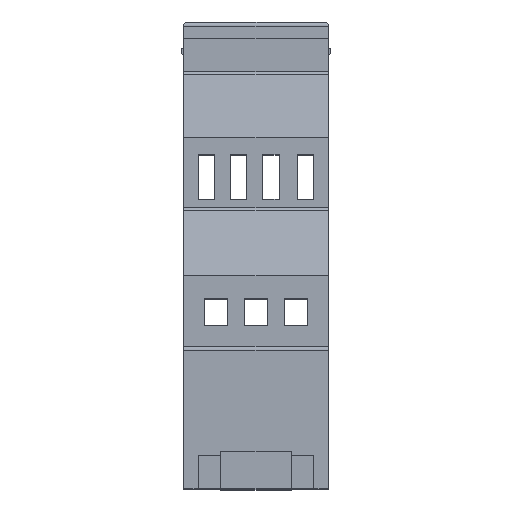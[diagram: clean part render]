
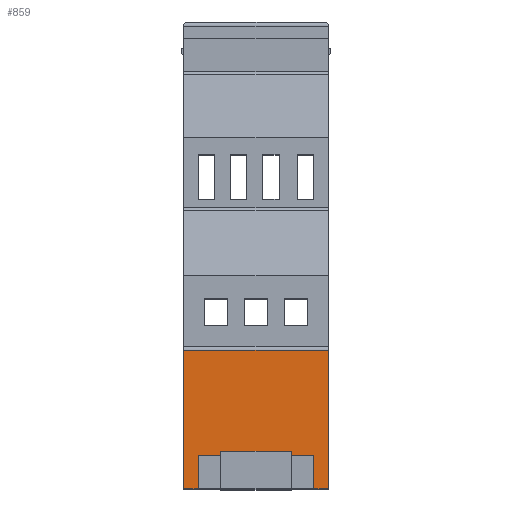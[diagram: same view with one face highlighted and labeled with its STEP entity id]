
A CAD part, top view. The second image highlights one B-rep face of the part: STEP entity #859.
In plain terms, the highlighted planar face has unit normal (0, 0, 1).
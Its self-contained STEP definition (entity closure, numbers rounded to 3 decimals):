
#126 = LINE ( 'NONE', #9702, #10310 ) ;
#288 = CARTESIAN_POINT ( 'NONE',  ( 17.5, 0., 45. ) ) ;
#313 = CARTESIAN_POINT ( 'NONE',  ( 15.75, 0., 45. ) ) ;
#355 = LINE ( 'NONE', #2900, #2182 ) ;
#418 = CARTESIAN_POINT ( 'NONE',  ( 15.75, 0., 45. ) ) ;
#570 = CARTESIAN_POINT ( 'NONE',  ( 0., 0., 45. ) ) ;
#681 = DIRECTION ( 'NONE',  ( 0., -1., 0. ) ) ;
#859 = ADVANCED_FACE ( 'NONE', ( #7921 ), #8162, .F. ) ;
#927 = ORIENTED_EDGE ( 'NONE', *, *, #8891, .F. ) ;
#1459 = ORIENTED_EDGE ( 'NONE', *, *, #5930, .F. ) ;
#1801 = CARTESIAN_POINT ( 'NONE',  ( 17.5, 0., 45. ) ) ;
#1993 = VERTEX_POINT ( 'NONE', #3365 ) ;
#2121 = VERTEX_POINT ( 'NONE', #7985 ) ;
#2124 = CARTESIAN_POINT ( 'NONE',  ( 0., 16.732, 45. ) ) ;
#2182 = VECTOR ( 'NONE', #2194, 1000. ) ;
#2194 = DIRECTION ( 'NONE',  ( -1., 0., 0. ) ) ;
#2236 = ORIENTED_EDGE ( 'NONE', *, *, #6373, .F. ) ;
#2900 = CARTESIAN_POINT ( 'NONE',  ( 17.5, 4., 45. ) ) ;
#3365 = CARTESIAN_POINT ( 'NONE',  ( 17.5, 16.732, 45. ) ) ;
#3550 = LINE ( 'NONE', #9728, #4984 ) ;
#3574 = VERTEX_POINT ( 'NONE', #4651 ) ;
#3837 = AXIS2_PLACEMENT_3D ( 'NONE', #1801, #8102, #9714 ) ;
#4209 = VERTEX_POINT ( 'NONE', #4647 ) ;
#4245 = EDGE_CURVE ( 'NONE', #7053, #9520, #3550, .T. ) ;
#4482 = EDGE_LOOP ( 'NONE', ( #927, #9463, #9335, #2236, #10240, #5095, #1459, #9763 ) ) ;
#4647 = CARTESIAN_POINT ( 'NONE',  ( 15.75, 4., 45. ) ) ;
#4651 = CARTESIAN_POINT ( 'NONE',  ( 1.75, 4., 45. ) ) ;
#4862 = CARTESIAN_POINT ( 'NONE',  ( 0., 0., 45. ) ) ;
#4984 = VECTOR ( 'NONE', #9032, 1000. ) ;
#5004 = VECTOR ( 'NONE', #9293, 1000. ) ;
#5095 = ORIENTED_EDGE ( 'NONE', *, *, #11081, .F. ) ;
#5120 = VECTOR ( 'NONE', #681, 1000. ) ;
#5203 = CARTESIAN_POINT ( 'NONE',  ( 17.5, 16.732, 45. ) ) ;
#5261 = CARTESIAN_POINT ( 'NONE',  ( 17.5, 0., 45. ) ) ;
#5279 = LINE ( 'NONE', #9798, #7670 ) ;
#5559 = VERTEX_POINT ( 'NONE', #4862 ) ;
#5591 = DIRECTION ( 'NONE',  ( -1., 0., 0. ) ) ;
#5930 = EDGE_CURVE ( 'NONE', #9520, #4209, #9348, .T. ) ;
#6373 = EDGE_CURVE ( 'NONE', #2121, #5559, #9227, .T. ) ;
#7004 = LINE ( 'NONE', #5203, #8295 ) ;
#7020 = EDGE_CURVE ( 'NONE', #1993, #8615, #7004, .T. ) ;
#7053 = VERTEX_POINT ( 'NONE', #5261 ) ;
#7500 = EDGE_CURVE ( 'NONE', #3574, #2121, #126, .T. ) ;
#7670 = VECTOR ( 'NONE', #10663, 1000. ) ;
#7921 = FACE_OUTER_BOUND ( 'NONE', #4482, .T. ) ;
#7985 = CARTESIAN_POINT ( 'NONE',  ( 1.75, 0., 45. ) ) ;
#8102 = DIRECTION ( 'NONE',  ( 0., 0., -1. ) ) ;
#8151 = DIRECTION ( 'NONE',  ( 0., -1., 0. ) ) ;
#8162 = PLANE ( 'NONE',  #3837 ) ;
#8295 = VECTOR ( 'NONE', #8729, 1000. ) ;
#8479 = LINE ( 'NONE', #570, #5120 ) ;
#8615 = VERTEX_POINT ( 'NONE', #2124 ) ;
#8729 = DIRECTION ( 'NONE',  ( -1., 0., 0. ) ) ;
#8891 = EDGE_CURVE ( 'NONE', #1993, #7053, #5279, .T. ) ;
#9032 = DIRECTION ( 'NONE',  ( -1., 0., 0. ) ) ;
#9227 = LINE ( 'NONE', #288, #10941 ) ;
#9293 = DIRECTION ( 'NONE',  ( 0., 1., 0. ) ) ;
#9335 = ORIENTED_EDGE ( 'NONE', *, *, #11248, .T. ) ;
#9348 = LINE ( 'NONE', #418, #5004 ) ;
#9463 = ORIENTED_EDGE ( 'NONE', *, *, #7020, .T. ) ;
#9520 = VERTEX_POINT ( 'NONE', #313 ) ;
#9702 = CARTESIAN_POINT ( 'NONE',  ( 1.75, 0., 45. ) ) ;
#9714 = DIRECTION ( 'NONE',  ( -1., 0., 0. ) ) ;
#9728 = CARTESIAN_POINT ( 'NONE',  ( 17.5, 0., 45. ) ) ;
#9763 = ORIENTED_EDGE ( 'NONE', *, *, #4245, .F. ) ;
#9798 = CARTESIAN_POINT ( 'NONE',  ( 17.5, 0., 45. ) ) ;
#10240 = ORIENTED_EDGE ( 'NONE', *, *, #7500, .F. ) ;
#10310 = VECTOR ( 'NONE', #8151, 1000. ) ;
#10663 = DIRECTION ( 'NONE',  ( 0., -1., 0. ) ) ;
#10941 = VECTOR ( 'NONE', #5591, 1000. ) ;
#11081 = EDGE_CURVE ( 'NONE', #4209, #3574, #355, .T. ) ;
#11248 = EDGE_CURVE ( 'NONE', #8615, #5559, #8479, .T. ) ;
